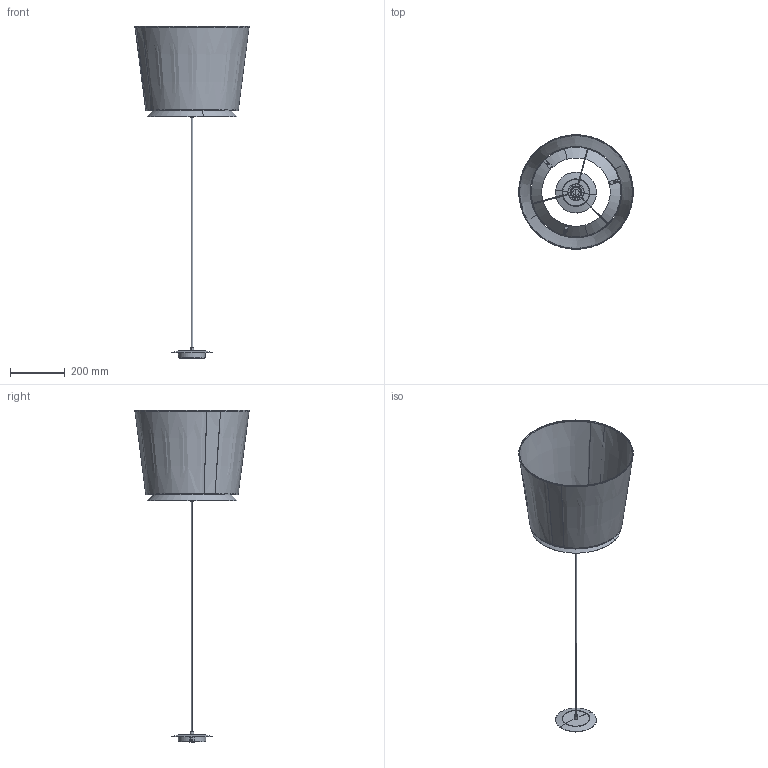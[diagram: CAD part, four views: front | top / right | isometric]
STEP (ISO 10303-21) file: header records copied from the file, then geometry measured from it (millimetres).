
FILE_DESCRIPTION(/* description */ (''),/* implementation_level */ '2;1');
FILE_NAME(/* name */ 'C:\Users\Franco Sartori E\Documents\FARO\DUPLICADO\Modelos\01_Digitalizados\00_OK\SAVOY\03_Publicación\20308_20309\20309-90.stp',/* time_stamp */ '2021-03-12T13:43:30+01:00',/* author */ ('Franco Sartori E'),/* organization */ (''),/* preprocessor_version */ 'ST-DEVELOPER v18.1',/* originating_system */ 'AutoCAD Mechanical',/* authorisation */ '');
FILE_SCHEMA (('AUTOMOTIVE_DESIGN { 1 0 10303 214 3 1 1 }'));
Length unit declared in the file: millimetre
Products named in the file (5): Product; 20308_20309_SAVOY_CS - SAVOY ceiling support-454715-_3D_; 20308_20309_SAVOY_LH - SAVOY Lamp Holder-454716-_3D_; 20308_20309_SAVOY_D - SAVOY DETAIL-454717-_3D_; 20319_T - SAVOY shade pendant lamp-454765-_3D_
Assembly tree (4 placements, depth 2):
  Product
    20308_20309_SAVOY_CS - SAVOY ceiling support-454715-_3D_
    20308_20309_SAVOY_LH - SAVOY Lamp Holder-454716-_3D_
    20308_20309_SAVOY_D - SAVOY DETAIL-454717-_3D_
    20319_T - SAVOY shade pendant lamp-454765-_3D_
Bounding box: 418.4 x 418.4 x 1215.44 mm (x, y, z)
Volume: 482503.9 mm3; surface area: 1727156.2 mm2
Topology: 10 solids, 12 shells, 280 faces, 702 edges, 424 vertices
Faces by surface type: plane 108, cylinder 98, cone 42, torus 32
Entity records: 11662 total; most frequent: CARTESIAN_POINT 5083, ORIENTED_EDGE 1314, DIRECTION 1298, EDGE_CURVE 702, AXIS2_PLACEMENT_3D 486, VERTEX_POINT 424, LINE 326, VECTOR 326
